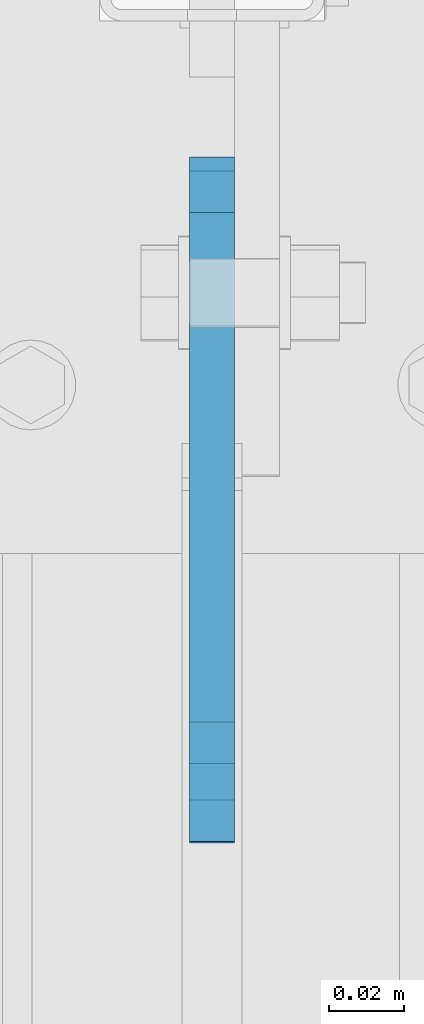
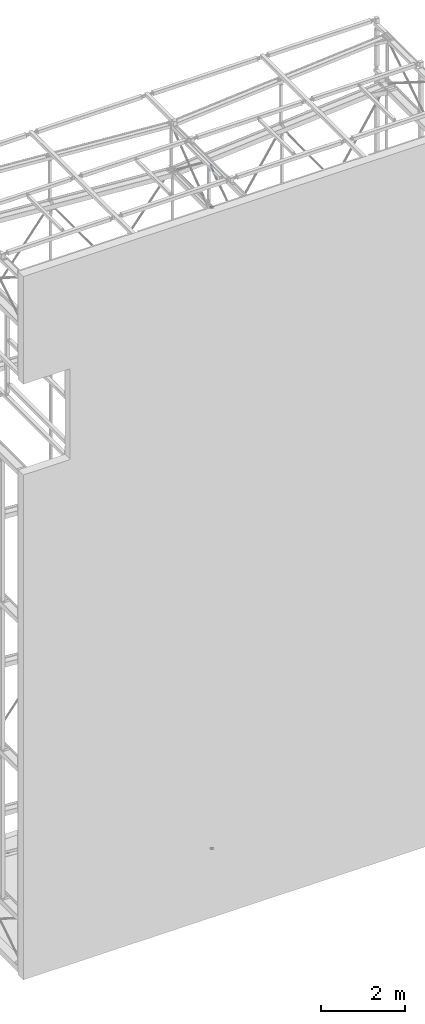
# One storey, part 120 of 271: 3 plates, 3 elements without a shape of their own.
"""IFC2X3 building model written with IfcOpenShell, lengths in millimetres."""

from ifc_helpers import new_model, si_unit, frame, origin_with_axes, place, context, subcontext, project, spatial, polyline, outline, extrude, material, type_object, element, aggregate, save


model = new_model("IFC2X3")

# Units and contexts
model_context = context("Model", 3, precision=1e-05, world=origin_with_axes())
body_context = subcontext(model_context, "Body", "Model", "MODEL_VIEW")
ifc_project = project(units=[si_unit("LENGTHUNIT", "METRE", prefix="MILLI"), si_unit("AREAUNIT", "SQUARE_METRE"), si_unit("VOLUMEUNIT", "CUBIC_METRE"), si_unit("MASSUNIT", "GRAM", prefix="KILO"), si_unit("TIMEUNIT", "SECOND"), si_unit("PLANEANGLEUNIT", "RADIAN"), si_unit("SOLIDANGLEUNIT", "STERADIAN"), si_unit("THERMODYNAMICTEMPERATUREUNIT", "DEGREE_CELSIUS"), si_unit("LUMINOUSINTENSITYUNIT", "LUMEN")], contexts=[model_context])

# Site, building, storey
site_placement = place(None, origin_with_axes())
site = spatial("IfcSite", under=ifc_project, at=site_placement, Name="Undefined", CompositionType="ELEMENT")
building_placement = place(site_placement, origin_with_axes())
building = spatial("IfcBuilding", under=site, at=building_placement, Name="Undefined", CompositionType="ELEMENT")
storey_placement = place(building_placement, origin_with_axes())
storey = spatial("IfcBuildingStorey", under=building, at=storey_placement, Name="Undefined", CompositionType="ELEMENT", Elevation=0.0)

# Assembly, plate
assembly_1_placement = place(storey_placement, origin_with_axes())
assembly_1 = element("IfcElementAssembly", 1, at=assembly_1_placement, inside=storey, AssemblyPlace="NOTDEFINED", PredefinedType="RIGID_FRAME")
ifc_material = material(Name="STEEL/S355JR")
plate_type = type_object("IfcPlateType", Name="BL12*56", PredefinedType="NOTDEFINED")
plate_1_placement = place(assembly_1_placement, frame((6347.37568798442, 1909.06788051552, 80.1499834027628), z_axis=(-1.0, 0.0, 1.38777878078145e-17), x_axis=(0.0, 0.177371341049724, -0.984143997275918)))
plate_1 = element("IfcPlate", 2, at=plate_1_placement, type_object=plate_type, material=ifc_material, Name="BLACHA", ObjectType="BL12*56", context=body_context, shape_type="SweptSolid", body=[
    extrude(outline(polyline([(0.0, 0.0), (21.2132034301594, 1.09139364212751e-11), (39.5979804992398, 18.3847751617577), (39.5979804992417, 39.5979804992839), (-86.9741363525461, 166.170089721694), (-100.762718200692, 152.381515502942), (-30.0520401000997, 81.670829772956), (-42.0728530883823, 69.6500167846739), (-112.783531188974, 140.36070251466), (-126.57211303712, 126.57211303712), (0.0, 0.0)])), frame((0.0, 0.0, -6.0), z_axis=(0.0, 0.0, 1.0), x_axis=(1.0, 0.0, 0.0)), (0.0, 0.0, 1.0), 12.0),
])
aggregate(assembly_1, [plate_1])

assembly_2_placement = place(storey_placement, origin_with_axes())
assembly_2 = element("IfcElementAssembly", 3, at=assembly_2_placement, inside=storey, AssemblyPlace="NOTDEFINED", PredefinedType="RIGID_FRAME")
plate_2_placement = place(assembly_2_placement, frame((6347.37568736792, 1877.12131391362, 19967.5436758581), z_axis=(-1.0, 0.0, 1.38777878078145e-17), x_axis=(0.0, 0.984143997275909, -0.177371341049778)))
plate_2 = element("IfcPlate", 4, at=plate_2_placement, type_object=plate_type, material=ifc_material, Name="BLACHA", ObjectType="BL12*56", context=body_context, shape_type="SweptSolid", body=[
    extrude(outline(polyline([(0.0, 0.0), (21.2132034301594, 1.09139364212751e-11), (39.5979804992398, 18.3847751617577), (39.5979804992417, 39.5979804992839), (-86.9741363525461, 166.170089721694), (-100.762718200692, 152.381515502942), (-30.0520401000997, 81.670829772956), (-42.0728530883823, 69.6500167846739), (-112.783531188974, 140.36070251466), (-126.57211303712, 126.57211303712), (0.0, 0.0)])), frame((0.0, 0.0, -6.0), z_axis=(0.0, 0.0, 1.0), x_axis=(1.0, 0.0, 0.0)), (0.0, 0.0, 1.0), 12.0),
])
aggregate(assembly_2, [plate_2])

assembly_3_placement = place(storey_placement, origin_with_axes())
assembly_3 = element("IfcElementAssembly", 5, at=assembly_3_placement, inside=storey, AssemblyPlace="NOTDEFINED", PredefinedType="RIGID_FRAME")
plate_3_placement = place(assembly_3_placement, frame((6347.37568736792, 1908.70795584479, 18727.3999828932), z_axis=(-1.0, 0.0, 1.38777878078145e-17), x_axis=(0.0, 0.177371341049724, -0.984143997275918)))
plate_3 = element("IfcPlate", 6, at=plate_3_placement, type_object=plate_type, material=ifc_material, Name="BLACHA", ObjectType="BL12*56", context=body_context, shape_type="SweptSolid", body=[
    extrude(outline(polyline([(0.0, 0.0), (21.2132034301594, 1.09139364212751e-11), (39.5979804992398, 18.3847751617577), (39.5979804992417, 39.5979804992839), (-86.9741363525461, 166.170089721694), (-100.762718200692, 152.381515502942), (-30.0520401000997, 81.670829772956), (-42.0728530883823, 69.6500167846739), (-112.783531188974, 140.36070251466), (-126.57211303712, 126.57211303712), (0.0, 0.0)])), frame((0.0, 0.0, -6.0), z_axis=(0.0, 0.0, 1.0), x_axis=(1.0, 0.0, 0.0)), (0.0, 0.0, 1.0), 12.0),
])
aggregate(assembly_3, [plate_3])

save(model, "model.ifc")
